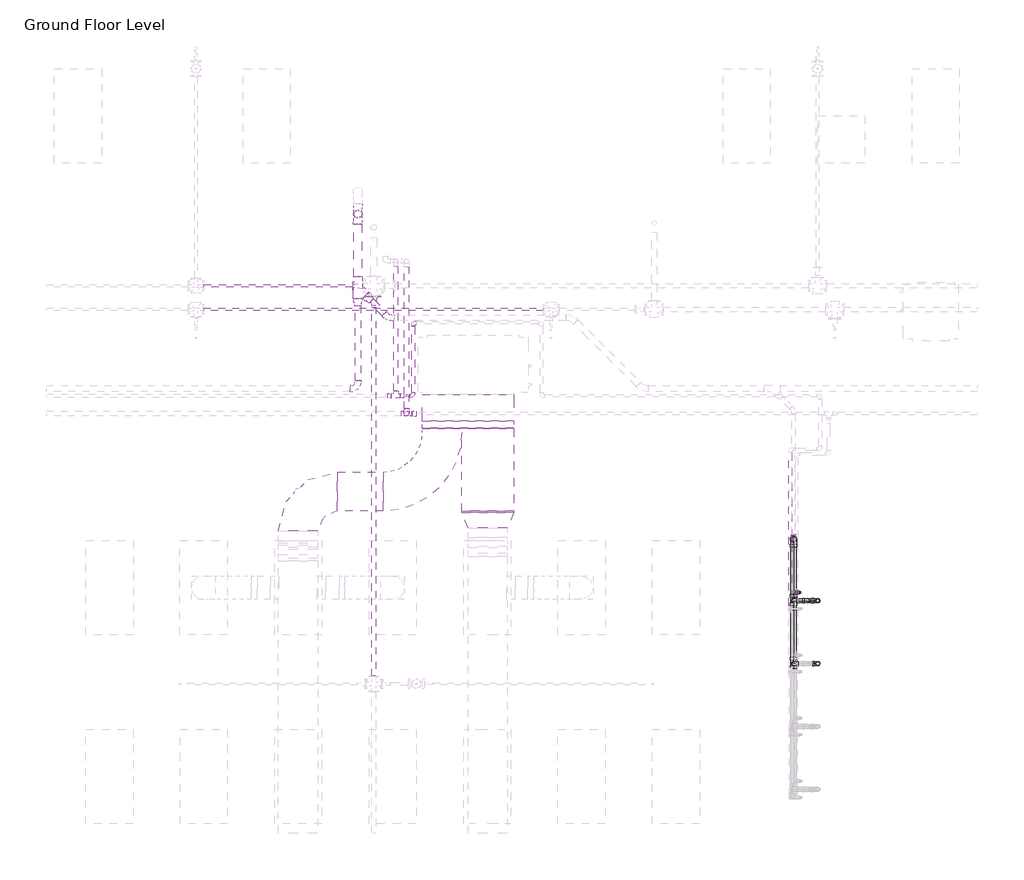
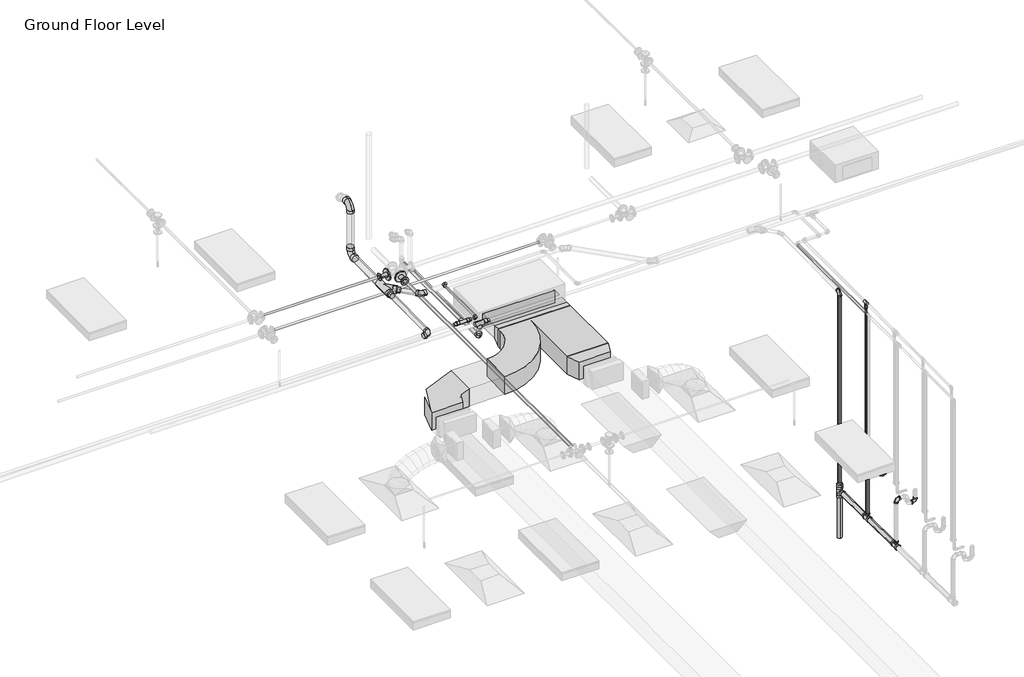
# One storey, part 50 of 66: 31 pipe fittings, 27 pipe segments, 5 duct fittings, 4 duct segments.
"""IFC4 building model written with IfcOpenShell, lengths in millimetres."""

from ifc_helpers import new_model, si_unit, point, frame, frame_2d, origin, place, context, project, spatial, polyline, circle_curve, trimmed, segment, composite_curve, outline, extrude, transform, mapped, element, save
from components import m_rectangular_elbow_radius_1_w_abe20169, m_rectangular_transition_angle_45_degree_0ac038db, m_rectangular_transition_angle_45_degree_2e6f116c, m_rectangular_transition_angle_45_degree_bb273bf1, m_rectangular_wye_smooth_radius_standard_737174da, m_bend_pvc_sch_40_dwv_standard_1e7bdcc1, m_bend_pvc_sch_40_dwv_standard_738aab8b, m_bend_pvc_sch_40_dwv_standard_33e831c1, m_bend_pvc_sch_40_dwv_standard_bd716fa2, m_bend_pvc_sch_40_dwv_standard_fbb643c2, m_bend_pvc_sch_40_dwv_standard_bfb77a87, m_reducer_flanged_cs_class_150_standard_fb6801e4, m_reducer_flanged_cs_class_150_standard_aac2962f, m_reducer_pvc_sch_40_dwv_standard_d6f2da47, m_reducer_pvc_sch_40_dwv_standard_93e50943, m_tee_pvc_sch_40_standard_4c5b037c, m_tee_reducing_sanitary_pvc_sch_40_dwv_standard_21d2848c, m_tee_reducing_sanitary_pvc_sch_40_dwv_standard_b574f8c1, standard_b266ab3f, standard_517a5a8d, standard_72b35c3b, standard_cd25fed3, standard_5079833c, standard_bbae78af, standard_a995ec02, standard_e5aa6446, standard_57727813, standard_77f9104c

model = new_model("IFC4")

# Units and contexts
model_context = context("Model", 3, world=origin())
ifc_project = project(units=[si_unit("LENGTHUNIT", "METRE", prefix="MILLI")], contexts=[model_context])

# Site, building, storey
site = spatial("IfcSite", under=ifc_project)
building = spatial("IfcBuilding", under=site)
storey = spatial("IfcBuildingStorey", under=building, Name="Ground Floor Level", Elevation=900.0)

# Duct fittings
placement = place(None, origin())
m_rectangular_elbow_radius_1_w_shape = m_rectangular_elbow_radius_1_w_abe20169(model_context)
element("IfcDuctFitting", 1, ObjectType="M_Rectangular Elbow - Radius : 1 W", at=placement, inside=storey, context=model_context, shape_type="MappedRepresentation", body=[
    mapped(m_rectangular_elbow_radius_1_w_shape, transform((-6939.6912607, 12459.4153535, 4107.1399598), x_axis=(-0.9999999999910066, 0.0, 4.2410714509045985e-06), y_axis=(0.0, -1.0, 0.0), z_axis=(4.2410714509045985e-06, 0.0, 0.9999999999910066))),
])
m_rectangular_transition_angle_45_degree_shape = m_rectangular_transition_angle_45_degree_0ac038db(model_context)
element("IfcDuctFitting", 2, ObjectType="M_Rectangular Transition - Angle : 45 Degree", at=placement, inside=storey, context=model_context, shape_type="MappedRepresentation", body=[
    mapped(m_rectangular_transition_angle_45_degree_shape, transform((-4528.6910789, 12192.414605, 4107.133239), x_axis=(0.0, -0.9999999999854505, 5.394345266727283e-06), y_axis=(1.0, 0.0, 0.0), z_axis=(0.0, 5.394345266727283e-06, 0.9999999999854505))),
])
m_rectangular_transition_angle_45_degree_2_shape = m_rectangular_transition_angle_45_degree_2e6f116c(model_context)
element("IfcDuctFitting", 3, ObjectType="M_Rectangular Transition - Angle : 45 Degree", at=placement, inside=storey, context=model_context, shape_type="MappedRepresentation", body=[
    mapped(m_rectangular_transition_angle_45_degree_2_shape, transform((-4778.6910789, 13694.4153534, 4150.0050223), x_axis=(0.0, -1.0, 0.0), y_axis=(1.0, 0.0, 0.0), z_axis=(0.0, 0.0, 1.0))),
])
m_rectangular_transition_angle_45_degree_3_shape = m_rectangular_transition_angle_45_degree_bb273bf1(model_context)
element("IfcDuctFitting", 4, ObjectType="M_Rectangular Transition - Angle : 45 Degree", at=placement, inside=storey, context=model_context, shape_type="MappedRepresentation", body=[
    mapped(m_rectangular_transition_angle_45_degree_3_shape, transform((-4778.6910789, 13354.5699657, 4150.0028095), x_axis=(0.0, -0.9999999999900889, -4.452214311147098e-06), y_axis=(1.0, 0.0, 0.0), z_axis=(0.0, -4.452214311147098e-06, 0.9999999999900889))),
])
m_rectangular_wye_smooth_radius_standard_shape = m_rectangular_wye_smooth_radius_standard_737174da(model_context)
element("IfcDuctFitting", 5, ObjectType="M_Rectangular Wye - Smooth Radius : Standard", at=placement, inside=storey, context=model_context, shape_type="MappedRepresentation", body=[
    mapped(m_rectangular_wye_smooth_radius_standard_shape, transform((-4653.6910789, 12459.4153535, 4107.1353795), x_axis=(0.0, -0.9999999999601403, -8.928571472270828e-06), y_axis=(1.0, 0.0, 0.0), z_axis=(0.0, -8.928571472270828e-06, 0.9999999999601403))),
])

# Duct segments
element("IfcDuctSegment", 6, ObjectType="Radius Elbows / Taps", at=placement, inside=storey, context=model_context, shape_type="SweptSolid", body=[
    extrude(outline(polyline([(-4859.6910789, 12209.4153535), (-4197.6910789, 12209.4153535), (-4197.6910789, 12192.414605), (-4859.6910789, 12192.414605), (-4859.6910789, 12209.4153535)])), frame((0.0, 0.0, 3957.1331473), z_axis=(0.0, 0.0, 1.0), x_axis=(1.0, 0.0, 0.0)), (0.0, 0.0, 1.0), 300.0),
])
element("IfcDuctSegment", 7, ObjectType="Radius Elbows / Taps", at=placement, inside=storey, context=model_context, shape_type="SweptSolid", body=[
    extrude(outline(polyline([(-5859.6910789, 12709.4153535), (-5859.6910789, 12209.4153535), (-6439.6912607, 12209.4153535), (-6439.6912607, 12709.4153535), (-5859.6910789, 12709.4153535)])), frame((0.0, 0.0, 3957.1353795), z_axis=(0.0, 0.0, 1.0), x_axis=(1.0, 0.0, 0.0)), (0.0, 0.0, 1.0), 300.0),
])
element("IfcDuctSegment", 8, ObjectType="Radius Elbows / Taps", at=placement, inside=storey, context=model_context, shape_type="SweptSolid", body=[
    extrude(outline(polyline([(-5359.6910789, 13694.083399), (-4197.6910789, 13694.083399), (-4197.6910789, 13354.5699657), (-5359.6910789, 13354.5699657), (-5359.6910789, 13694.083399)])), frame((0.0, 0.0, 4043.0050223), z_axis=(0.0, 0.0, 1.0), x_axis=(1.0, 0.0, 0.0)), (0.0, 0.0, 1.0), 214.0),
])
element("IfcDuctSegment", 9, ObjectType="Radius Elbows / Taps", at=placement, inside=storey, context=model_context, shape_type="SweptSolid", body=[
    extrude(outline(polyline([(0.0, -1162.0), (0.0, 0.0), (9.0109299, 0.0), (9.0109299, -1162.0), (0.0, -1162.0)])), frame((-5359.6910789, 13259.4862791, 3957.1425391), z_axis=(0.0, -0.00047283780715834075, 0.9999998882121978), x_axis=(0.0, 0.9999998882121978, 0.00047283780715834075)), (0.0, 0.0, 1.0), 300.0),
])

# Pipe fittings
m_bend_pvc_sch_40_dwv_standard_shape = m_bend_pvc_sch_40_dwv_standard_1e7bdcc1(model_context)
element("IfcPipeFitting", 10, ObjectType="M_Bend - PVC - Sch 40 - DWV : Standard", at=placement, inside=storey, context=model_context, shape_type="MappedRepresentation", body=[
    mapped(m_bend_pvc_sch_40_dwv_standard_shape, transform((-642.2357232, 11855.5503966, 4093.773994), x_axis=(0.0, 0.0, 1.0), y_axis=(0.0, 1.0, 0.0), z_axis=(-1.0, 0.0, 0.0))),
])
m_bend_pvc_sch_40_dwv_standard_2_shape = m_bend_pvc_sch_40_dwv_standard_738aab8b(model_context)
element("IfcPipeFitting", 11, ObjectType="M_Bend - PVC - Sch 40 - DWV : Standard", at=placement, inside=storey, context=model_context, shape_type="MappedRepresentation", body=[
    mapped(m_bend_pvc_sch_40_dwv_standard_2_shape, transform((-463.6645494, 11071.1979139, 1370.0), x_axis=(-1.0, 0.0, 0.0), y_axis=(0.0, 0.0, 1.0), z_axis=(0.0, 1.0, 0.0))),
])
element("IfcPipeFitting", 12, ObjectType="M_Bend - PVC - Sch 40 - DWV : Standard", at=placement, inside=storey, context=model_context, shape_type="MappedRepresentation", body=[
    mapped(m_bend_pvc_sch_40_dwv_standard_2_shape, transform((-463.6645494, 11071.1979139, 1510.0), x_axis=(0.0, 0.0, 1.0), y_axis=(-1.0, 0.0, 0.0), z_axis=(0.0, -1.0, 0.0))),
])
element("IfcPipeFitting", 13, ObjectType="M_Bend - PVC - Sch 40 - DWV : Standard", at=placement, inside=storey, context=model_context, shape_type="MappedRepresentation", body=[
    mapped(m_bend_pvc_sch_40_dwv_standard_2_shape, transform((-333.6645494, 10271.1979139, 1370.0), x_axis=(1.0, 0.0, 0.0), y_axis=(0.0, 0.0, 1.0), z_axis=(0.0, -1.0, 0.0))),
])
element("IfcPipeFitting", 14, ObjectType="M_Bend - PVC - Sch 40 - DWV : Standard", at=placement, inside=storey, context=model_context, shape_type="MappedRepresentation", body=[
    mapped(m_bend_pvc_sch_40_dwv_standard_2_shape, transform((-333.6645494, 11071.1979139, 1370.0), x_axis=(1.0, 0.0, 0.0), y_axis=(0.0, 0.0, 1.0), z_axis=(0.0, -1.0, 0.0))),
])
element("IfcPipeFitting", 15, ObjectType="M_Bend - PVC - Sch 40 - DWV : Standard", at=placement, inside=storey, context=model_context, shape_type="MappedRepresentation", body=[
    mapped(m_bend_pvc_sch_40_dwv_standard_2_shape, transform((-642.2301761, 10271.1979139, 1510.0), x_axis=(-1.0, 0.0, 0.0), y_axis=(0.0, 0.0, -1.0), z_axis=(0.0, -1.0, 0.0))),
])
element("IfcPipeFitting", 16, ObjectType="M_Bend - PVC - Sch 40 - DWV : Standard", at=placement, inside=storey, context=model_context, shape_type="MappedRepresentation", body=[
    mapped(m_bend_pvc_sch_40_dwv_standard_2_shape, transform((-642.2301761, 11071.1979139, 1510.0), x_axis=(-1.0, 0.0, 0.0), y_axis=(0.0, 0.0, -1.0), z_axis=(0.0, -1.0, 0.0))),
])
m_bend_pvc_sch_40_dwv_standard_3_shape = m_bend_pvc_sch_40_dwv_standard_33e831c1(model_context)
element("IfcPipeFitting", 17, ObjectType="M_Bend - PVC - Sch 40 - DWV : Standard", at=placement, inside=storey, context=model_context, shape_type="MappedRepresentation", body=[
    mapped(m_bend_pvc_sch_40_dwv_standard_3_shape, transform((-6179.174125, 13768.8048932, 4156.9282537), x_axis=(0.9999500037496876, 0.0, 0.00999950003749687), y_axis=(-9.998500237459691e-05, 0.999950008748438, 0.009998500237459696), z_axis=(-0.009999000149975, -0.009999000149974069, 0.9999000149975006))),
])
m_bend_pvc_sch_40_dwv_standard_4_shape = m_bend_pvc_sch_40_dwv_standard_bd716fa2(model_context)
element("IfcPipeFitting", 18, ObjectType="M_Bend - PVC - Sch 40 - DWV : Standard", at=placement, inside=storey, context=model_context, shape_type="MappedRepresentation", body=[
    mapped(m_bend_pvc_sch_40_dwv_standard_4_shape, transform((-6179.1770144, 15988.8715849, 4179.1289206), x_axis=(0.0, 0.9999500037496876, 0.009999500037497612), y_axis=(0.0, -0.009999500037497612, 0.9999500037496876), z_axis=(1.0, 0.0, 0.0))),
])
m_bend_pvc_sch_40_dwv_standard_5_shape = m_bend_pvc_sch_40_dwv_standard_fbb643c2(model_context)
element("IfcPipeFitting", 19, ObjectType="M_Bend - PVC - Sch 40 - DWV : Standard", at=placement, inside=storey, context=model_context, shape_type="MappedRepresentation", body=[
    mapped(m_bend_pvc_sch_40_dwv_standard_5_shape, transform((-5796.171114, 14668.7334723, 4163.0722858), x_axis=(0.7069124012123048, -0.7071711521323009, -0.013557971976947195), y_axis=(0.7072304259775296, 0.7069828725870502, -0.0005851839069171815), z_axis=(0.009999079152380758, -0.00917493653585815, 0.999907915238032))),
])
m_bend_pvc_sch_40_dwv_standard_6_shape = m_bend_pvc_sch_40_dwv_standard_bfb77a87(model_context)
element("IfcPipeFitting", 20, ObjectType="M_Bend - PVC - Sch 40 - DWV : Standard", at=placement, inside=storey, context=model_context, shape_type="MappedRepresentation", body=[
    mapped(m_bend_pvc_sch_40_dwv_standard_6_shape, transform((-6179.1776394, 15988.874234, 5027.5258857), x_axis=(-4.882554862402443e-06, 2.069385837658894e-05, 0.9999999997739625), y_axis=(4.892659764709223e-08, 0.9999999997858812, -2.0693858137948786e-05), z_axis=(-0.9999999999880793, 4.8825558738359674e-08, -4.882555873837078e-06))),
])
m_reducer_flanged_cs_class_150_standard_shape = m_reducer_flanged_cs_class_150_standard_fb6801e4(model_context)
element("IfcPipeFitting", 21, ObjectType="M_Reducer - Flanged - CS - Class 150 : Standard", at=placement, inside=storey, context=model_context, shape_type="MappedRepresentation", body=[
    mapped(m_reducer_flanged_cs_class_150_standard_shape, transform((-6105.130502, 15073.2009828, 4360.0), x_axis=(-1.0, 0.0, 0.0), y_axis=(0.0, -1.0, 0.0), z_axis=(0.0, 0.0, 1.0))),
])
m_reducer_flanged_cs_class_150_standard_2_shape = m_reducer_flanged_cs_class_150_standard_aac2962f(model_context)
element("IfcPipeFitting", 22, ObjectType="M_Reducer - Flanged - CS - Class 150 : Standard", at=placement, inside=storey, context=model_context, shape_type="MappedRepresentation", body=[
    mapped(m_reducer_flanged_cs_class_150_standard_2_shape, transform((-5978.130502, 14946.2009828, 4360.0), x_axis=(0.0, -1.0, 0.0), y_axis=(1.0, 0.0, 0.0), z_axis=(0.0, 0.0, 1.0))),
])
m_reducer_pvc_sch_40_dwv_standard_shape = m_reducer_pvc_sch_40_dwv_standard_d6f2da47(model_context)
element("IfcPipeFitting", 23, ObjectType="M_Reducer - PVC - Sch 40 - DWV : Standard", at=placement, inside=storey, context=model_context, shape_type="MappedRepresentation", body=[
    mapped(m_reducer_pvc_sch_40_dwv_standard_shape, transform((-642.2301761, 11855.5442121, 776.9463422), x_axis=(0.0, 0.0, 1.0), y_axis=(0.0, 1.0, 0.0), z_axis=(-1.0, 0.0, 0.0))),
])
m_reducer_pvc_sch_40_dwv_standard_2_shape = m_reducer_pvc_sch_40_dwv_standard_93e50943(model_context)
element("IfcPipeFitting", 24, ObjectType="M_Reducer - PVC - Sch 40 - DWV : Standard", at=placement, inside=storey, context=model_context, shape_type="MappedRepresentation", body=[
    mapped(m_reducer_pvc_sch_40_dwv_standard_2_shape, transform((-6179.1770144, 14819.9179815, 4167.4393846), x_axis=(0.0, 0.9999500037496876, 0.009999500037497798), y_axis=(-1.0000000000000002, 0.0, 0.0), z_axis=(0.0, -0.009999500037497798, 0.9999500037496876))),
])
element("IfcPipeFitting", 25, ObjectType="M_Reducer - PVC - Sch 40 - DWV : Standard", at=placement, inside=storey, context=model_context, shape_type="MappedRepresentation", body=[
    mapped(m_reducer_pvc_sch_40_dwv_standard_2_shape, transform((-6010.7168995, 14883.3577879, 4167.1870895), x_axis=(-0.7069124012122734, 0.7071711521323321, 0.01355797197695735), y_axis=(-0.7072361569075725, -0.7069773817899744, -2.1519182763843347e-08), z_axis=(0.00958516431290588, -0.009588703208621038, 0.9999080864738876))),
])
m_tee_pvc_sch_40_standard_shape = m_tee_pvc_sch_40_standard_4c5b037c(model_context)
element("IfcPipeFitting", 26, ObjectType="M_Tee - PVC - Sch 40 : Standard", at=placement, inside=storey, context=model_context, shape_type="MappedRepresentation", body=[
    mapped(m_tee_pvc_sch_40_standard_shape, transform((-6179.1770144, 15051.7796868, 4169.7580016), x_axis=(0.0, 0.9999500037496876, 0.009999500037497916), y_axis=(-0.9999972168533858, -2.3591797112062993e-05, 0.0023591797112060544), z_axis=(0.0023592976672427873, -0.009999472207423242, 0.9999472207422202))),
])
m_tee_reducing_sanitary_pvc_sch_40_dwv_standard_shape = m_tee_reducing_sanitary_pvc_sch_40_dwv_standard_21d2848c(model_context)
element("IfcPipeFitting", 27, ObjectType="M_Tee Reducing Sanitary - PVC - Sch 40 - DWV : Standard", at=placement, inside=storey, context=model_context, shape_type="MappedRepresentation", body=[
    mapped(m_tee_reducing_sanitary_pvc_sch_40_dwv_standard_shape, transform((-642.2301761, 10271.1979139, 711.098886), x_axis=(0.0, -0.9999500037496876, 0.009999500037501), y_axis=(0.0, -0.009999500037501, -0.9999500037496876), z_axis=(1.0, 0.0, 0.0))),
])
element("IfcPipeFitting", 28, ObjectType="M_Tee Reducing Sanitary - PVC - Sch 40 - DWV : Standard", at=placement, inside=storey, context=model_context, shape_type="MappedRepresentation", body=[
    mapped(m_tee_reducing_sanitary_pvc_sch_40_dwv_standard_shape, transform((-642.2301761, 11071.1979139, 703.098886), x_axis=(0.0, -0.9999500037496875, 0.00999950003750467), y_axis=(0.0, -0.00999950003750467, -0.9999500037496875), z_axis=(1.0, 0.0, 0.0))),
])
m_tee_reducing_sanitary_pvc_sch_40_dwv_standard_2_shape = m_tee_reducing_sanitary_pvc_sch_40_dwv_standard_b574f8c1(model_context)
element("IfcPipeFitting", 29, ObjectType="M_Tee Reducing Sanitary - PVC - Sch 40 - DWV : Standard", at=placement, inside=storey, context=model_context, shape_type="MappedRepresentation", body=[
    mapped(m_tee_reducing_sanitary_pvc_sch_40_dwv_standard_2_shape, transform((-642.2301761, 11855.5442121, 695.255423), x_axis=(0.0, 0.0, 1.0), y_axis=(0.0, 1.0, 0.0), z_axis=(-1.0, 0.0, 0.0))),
])
standard_shape = standard_b266ab3f(model_context)
element("IfcPipeFitting", 30, ObjectType="M_Elbow - CPVC - Sch 40 : Standard", at=placement, inside=storey, context=model_context, shape_type="MappedRepresentation", body=[
    mapped(standard_shape, transform((-607.2327605, 11175.5128345, 1690.0), x_axis=(-1.0, 0.0, 0.0), y_axis=(0.0, 0.0, 1.0), z_axis=(0.0, 1.0, 0.0))),
])
standard_2_shape = standard_517a5a8d(model_context)
element("IfcPipeFitting", 31, ObjectType="M_Elbow - CPVC - Sch 40 : Standard", at=placement, inside=storey, context=model_context, shape_type="MappedRepresentation", body=[
    mapped(standard_2_shape, transform((-5476.1871015, 13675.2153534, 4250.0), x_axis=(1.0, 0.0, 0.0), y_axis=(0.0, 1.0, 0.0), z_axis=(0.0, 0.0, 1.0))),
])
element("IfcPipeFitting", 32, ObjectType="M_Elbow - CPVC - Sch 40 : Standard", at=placement, inside=storey, context=model_context, shape_type="MappedRepresentation", body=[
    mapped(standard_2_shape, transform((-5476.1871015, 14603.43487, 4250.0), x_axis=(-1.0, 0.0, 0.0), y_axis=(0.0, -1.0, 0.0), z_axis=(0.0, 0.0, 1.0))),
])
standard_3_shape = standard_72b35c3b(model_context)
element("IfcPipeFitting", 33, ObjectType="M_Tee - CPVC - Sch 40 : Standard", at=placement, inside=storey, context=model_context, shape_type="MappedRepresentation", body=[
    mapped(standard_3_shape, transform((-607.2327605, 11175.5128345, 4315.0), x_axis=(0.0, -1.0, 0.0), y_axis=(0.0, 0.0, 1.0), z_axis=(-1.0, 0.0, 0.0))),
])
standard_4_shape = standard_cd25fed3(model_context)
element("IfcPipeFitting", 34, ObjectType="M_Tee - CPVC - Sch 40 : Standard", at=placement, inside=storey, context=model_context, shape_type="MappedRepresentation", body=[
    mapped(standard_4_shape, transform((-5560.8713756, 13449.9865561, 4315.0), x_axis=(1.0, 0.0, 0.0), y_axis=(0.0, 0.0, 1.0), z_axis=(0.0, -1.0, 0.0))),
])
standard_5_shape = standard_5079833c(model_context)
element("IfcPipeFitting", 35, ObjectType="M_Coupling Reducing - CPVC - Sch 40 : Standard", at=placement, inside=storey, context=model_context, shape_type="MappedRepresentation", body=[
    mapped(standard_5_shape, transform((-5486.9943636, 13449.9865561, 4315.0), x_axis=(1.0, 0.0, 0.0), y_axis=(0.0, 1.0, 0.0), z_axis=(0.0, 0.0, 1.0))),
])
standard_6_shape = standard_bbae78af(model_context)
element("IfcPipeFitting", 36, ObjectType="M_Tee - CPVC - Sch 40 : Standard", at=placement, inside=storey, context=model_context, shape_type="MappedRepresentation", body=[
    mapped(standard_6_shape, transform((-5698.3060147, 13675.2153534, 4250.0), x_axis=(1.0, 0.0, 0.0), y_axis=(0.0, -1.0, 0.0), z_axis=(0.0, 0.0, -1.0))),
])
standard_7_shape = standard_a995ec02(model_context)
element("IfcPipeFitting", 37, ObjectType="M_Coupling Reducing - CPVC - Sch 40 : Standard", at=placement, inside=storey, context=model_context, shape_type="MappedRepresentation", body=[
    mapped(standard_7_shape, transform((-5757.0562147, 13675.2153534, 4250.0), x_axis=(-1.0, 0.0, 0.0), y_axis=(0.0, -1.0, 0.0), z_axis=(0.0, 0.0, 1.0))),
])
standard_8_shape = standard_e5aa6446(model_context)
element("IfcPipeFitting", 38, ObjectType="M_Coupling Reducing - CPVC - Sch 40 : Standard", at=placement, inside=storey, context=model_context, shape_type="MappedRepresentation", body=[
    mapped(standard_8_shape, transform((-607.2327605, 11175.5128345, 4275.2998), x_axis=(0.0, 0.0, -1.0), y_axis=(1.0, 0.0, 0.0), z_axis=(0.0, -1.0, 0.0))),
])
standard_9_shape = standard_57727813(model_context)
element("IfcPipeFitting", 39, ObjectType="M_Elbow - CPVC - Sch 40 : Standard", at=placement, inside=storey, context=model_context, shape_type="MappedRepresentation", body=[
    mapped(standard_9_shape, transform((-5560.8713756, 13449.9865561, 4090.0), x_axis=(0.0, 0.0, -1.0), y_axis=(0.0, 1.0, 0.0), z_axis=(1.0, 0.0, 0.0))),
])
standard_10_shape = standard_77f9104c(model_context)
element("IfcPipeFitting", 40, ObjectType="M_Coupling Reducing - CPVC - Sch 40 : Standard", at=placement, inside=storey, context=model_context, shape_type="MappedRepresentation", body=[
    mapped(standard_10_shape, transform((-5639.5558147, 13675.2153534, 4250.0), x_axis=(1.0, 0.0, 0.0), y_axis=(0.0, 1.0, 0.0), z_axis=(0.0, 0.0, 1.0))),
])

# Pipe segments
element("IfcPipeSegment", 41, ObjectType="CPVC", at=placement, inside=storey, context=model_context, shape_type="SweptSolid", body=[
    extrude(outline(composite_curve([segment(trimmed(circle_curve(frame_2d((13449.9865561, 4315.0)), 30.1625), [point((13419.8240561, 4315.0))], [point((13449.9865561, 4345.1625))], False, "CARTESIAN"), True, "CONTINUOUS"), segment(trimmed(circle_curve(frame_2d((13449.9865561, 4315.0)), 30.1625), [point((13449.9865561, 4345.1625))], [point((13480.1490561, 4315.0))], False, "CARTESIAN"), True, "CONTINUOUS"), segment(trimmed(circle_curve(frame_2d((13449.9865561, 4315.0)), 30.1625), [point((13480.1490561, 4315.0))], [point((13449.9865561, 4284.8375))], False, "CARTESIAN"), True, "CONTINUOUS"), segment(trimmed(circle_curve(frame_2d((13449.9865561, 4315.0)), 30.1625), [point((13449.9865561, 4284.8375))], [point((13419.8240561, 4315.0))], False, "CARTESIAN"), True, "CONTINUOUS")], self_intersect=False)), frame((-5494.1963756, 0.0, 0.0), z_axis=(1.0, 0.0, 0.0), x_axis=(0.0, 1.0, 0.0)), (0.0, 0.0, 1.0), 7.202012),
])
element("IfcPipeSegment", 42, ObjectType="CPVC", at=placement, inside=storey, context=model_context, shape_type="SweptSolid", body=[
    extrude(outline(composite_curve([segment(trimmed(circle_curve(frame_2d((4090.0, -5560.8713756)), 30.1625), [point((4090.0, -5591.0338756))], [point((4059.8375, -5560.8713756))], False, "CARTESIAN"), True, "CONTINUOUS"), segment(trimmed(circle_curve(frame_2d((4090.0, -5560.8713756)), 30.1625), [point((4059.8375, -5560.8713756))], [point((4090.0, -5530.7088756))], False, "CARTESIAN"), True, "CONTINUOUS"), segment(trimmed(circle_curve(frame_2d((4090.0, -5560.8713756)), 30.1625), [point((4090.0, -5530.7088756))], [point((4120.1625, -5560.8713756))], False, "CARTESIAN"), True, "CONTINUOUS"), segment(trimmed(circle_curve(frame_2d((4090.0, -5560.8713756)), 30.1625), [point((4120.1625, -5560.8713756))], [point((4090.0, -5591.0338756))], False, "CARTESIAN"), True, "CONTINUOUS")], self_intersect=False)), frame((0.0, 13514.2803061, 0.0), z_axis=(0.0, 1.0, 0.0), x_axis=(0.0, 0.0, 1.0)), (0.0, 0.0, 1.0), 1806.9275947),
])
element("IfcPipeSegment", 43, ObjectType="CPVC", at=placement, inside=storey, context=model_context, shape_type="SweptSolid", body=[
    extrude(outline(composite_curve([segment(trimmed(circle_curve(frame_2d((4250.0, -5698.3060147)), 24.13), [point((4250.0, -5674.1760147))], [point((4274.13, -5698.3060147))], False, "CARTESIAN"), True, "CONTINUOUS"), segment(trimmed(circle_curve(frame_2d((4250.0, -5698.3060147)), 24.13), [point((4274.13, -5698.3060147))], [point((4250.0, -5722.4360147))], False, "CARTESIAN"), True, "CONTINUOUS"), segment(trimmed(circle_curve(frame_2d((4250.0, -5698.3060147)), 24.13), [point((4250.0, -5722.4360147))], [point((4225.87, -5698.3060147))], False, "CARTESIAN"), True, "CONTINUOUS"), segment(trimmed(circle_curve(frame_2d((4250.0, -5698.3060147)), 24.13), [point((4225.87, -5698.3060147))], [point((4250.0, -5674.1760147))], False, "CARTESIAN"), True, "CONTINUOUS")], self_intersect=False)), frame((0.0, 13733.9655534, 0.0), z_axis=(0.0, 1.0, 0.0), x_axis=(0.0, 0.0, 1.0)), (0.0, 0.0, 1.0), 1593.3020527),
])
element("IfcPipeSegment", 44, ObjectType="CPVC", at=placement, inside=storey, context=model_context, shape_type="SweptSolid", body=[
    extrude(outline(composite_curve([segment(trimmed(circle_curve(frame_2d((11175.5128345, 1690.0)), 13.335), [point((11188.8478345, 1690.0))], [point((11175.5128345, 1676.665))], False, "CARTESIAN"), True, "CONTINUOUS"), segment(trimmed(circle_curve(frame_2d((11175.5128345, 1690.0)), 13.335), [point((11175.5128345, 1676.665))], [point((11162.1778345, 1690.0))], False, "CARTESIAN"), True, "CONTINUOUS"), segment(trimmed(circle_curve(frame_2d((11175.5128345, 1690.0)), 13.335), [point((11162.1778345, 1690.0))], [point((11175.5128345, 1703.335))], False, "CARTESIAN"), True, "CONTINUOUS"), segment(trimmed(circle_curve(frame_2d((11175.5128345, 1690.0)), 13.335), [point((11175.5128345, 1703.335))], [point((11188.8478345, 1690.0))], False, "CARTESIAN"), True, "CONTINUOUS")], self_intersect=False)), frame((-571.9077105, 0.0, 0.0), z_axis=(1.0, 0.0, 0.0), x_axis=(0.0, 1.0, 0.0)), (0.0, 0.0, 1.0), 14.67495),
])
element("IfcPipeSegment", 45, ObjectType="CPVC", at=placement, inside=storey, context=model_context, shape_type="SweptSolid", body=[
    extrude(outline(composite_curve([segment(trimmed(circle_curve(frame_2d((-607.2327605, 11175.5128345)), 13.335), [point((-620.5677605, 11175.5128345))], [point((-607.2327605, 11188.8478345))], False, "CARTESIAN"), True, "CONTINUOUS"), segment(trimmed(circle_curve(frame_2d((-607.2327605, 11175.5128345)), 13.335), [point((-607.2327605, 11188.8478345))], [point((-593.8977605, 11175.5128345))], False, "CARTESIAN"), True, "CONTINUOUS"), segment(trimmed(circle_curve(frame_2d((-607.2327605, 11175.5128345)), 13.335), [point((-593.8977605, 11175.5128345))], [point((-607.2327605, 11162.1778345))], False, "CARTESIAN"), True, "CONTINUOUS"), segment(trimmed(circle_curve(frame_2d((-607.2327605, 11175.5128345)), 13.335), [point((-607.2327605, 11162.1778345))], [point((-620.5677605, 11175.5128345))], False, "CARTESIAN"), True, "CONTINUOUS")], self_intersect=False)), frame((0.0, 0.0, 1725.32505), z_axis=(0.0, 0.0, 1.0), x_axis=(1.0, 0.0, 0.0)), (0.0, 0.0, 1.0), 2492.82475),
])
element("IfcPipeSegment", 46, ObjectType="CPVC", at=placement, inside=storey, context=model_context, shape_type="SweptSolid", body=[
    extrude(outline(composite_curve([segment(trimmed(circle_curve(frame_2d((4250.0, -684.0671674)), 16.7005), [point((4250.0, -667.3666674))], [point((4266.7005, -684.0671674))], False, "CARTESIAN"), True, "CONTINUOUS"), segment(trimmed(circle_curve(frame_2d((4250.0, -684.0671674)), 16.7005), [point((4266.7005, -684.0671674))], [point((4250.0, -700.7676674))], False, "CARTESIAN"), True, "CONTINUOUS"), segment(trimmed(circle_curve(frame_2d((4250.0, -684.0671674)), 16.7005), [point((4250.0, -700.7676674))], [point((4233.2995, -684.0671674))], False, "CARTESIAN"), True, "CONTINUOUS"), segment(trimmed(circle_curve(frame_2d((4250.0, -684.0671674)), 16.7005), [point((4233.2995, -684.0671674))], [point((4250.0, -667.3666674))], False, "CARTESIAN"), True, "CONTINUOUS")], self_intersect=False)), frame((0.0, 11006.5831933, 0.0), z_axis=(0.0, 1.0, 0.0), x_axis=(0.0, 0.0, 1.0)), (0.0, 0.0, 1.0), 1945.3696101),
])
element("IfcPipeSegment", 47, ObjectType="CPVC", at=placement, inside=storey, context=model_context, shape_type="SweptSolid", body=[
    extrude(outline(composite_curve([segment(trimmed(circle_curve(frame_2d((13675.2153534, 4250.0)), 16.7005), [point((13658.5148534, 4250.0))], [point((13675.2153534, 4266.7005))], False, "CARTESIAN"), True, "CONTINUOUS"), segment(trimmed(circle_curve(frame_2d((13675.2153534, 4250.0)), 16.7005), [point((13675.2153534, 4266.7005))], [point((13691.9158534, 4250.0))], False, "CARTESIAN"), True, "CONTINUOUS"), segment(trimmed(circle_curve(frame_2d((13675.2153534, 4250.0)), 16.7005), [point((13691.9158534, 4250.0))], [point((13675.2153534, 4233.2995))], False, "CARTESIAN"), True, "CONTINUOUS"), segment(trimmed(circle_curve(frame_2d((13675.2153534, 4250.0)), 16.7005), [point((13675.2153534, 4233.2995))], [point((13658.5148534, 4250.0))], False, "CARTESIAN"), True, "CONTINUOUS")], self_intersect=False)), frame((-5567.3569397, 0.0, 0.0), z_axis=(1.0, 0.0, 0.0), x_axis=(0.0, 1.0, 0.0)), (0.0, 0.0, 1.0), 47.9072882),
])
element("IfcPipeSegment", 48, ObjectType="CPVC", at=placement, inside=storey, context=model_context, shape_type="SweptSolid", body=[
    extrude(outline(composite_curve([segment(trimmed(circle_curve(frame_2d((4250.0, -5476.1871015)), 16.7005), [point((4250.0, -5459.4866015))], [point((4266.7005, -5476.1871015))], False, "CARTESIAN"), True, "CONTINUOUS"), segment(trimmed(circle_curve(frame_2d((4250.0, -5476.1871015)), 16.7005), [point((4266.7005, -5476.1871015))], [point((4250.0, -5492.8876015))], False, "CARTESIAN"), True, "CONTINUOUS"), segment(trimmed(circle_curve(frame_2d((4250.0, -5476.1871015)), 16.7005), [point((4250.0, -5492.8876015))], [point((4233.2995, -5476.1871015))], False, "CARTESIAN"), True, "CONTINUOUS"), segment(trimmed(circle_curve(frame_2d((4250.0, -5476.1871015)), 16.7005), [point((4233.2995, -5476.1871015))], [point((4250.0, -5459.4866015))], False, "CARTESIAN"), True, "CONTINUOUS")], self_intersect=False)), frame((0.0, 13718.4779034, 0.0), z_axis=(0.0, 1.0, 0.0), x_axis=(0.0, 0.0, 1.0)), (0.0, 0.0, 1.0), 841.6944166),
])
element("IfcPipeSegment", 49, ObjectType="CPVC", at=placement, inside=storey, context=model_context, shape_type="SweptSolid", body=[
    extrude(outline(composite_curve([segment(trimmed(circle_curve(frame_2d((-5560.8713756, 13449.9865561)), 30.1625), [point((-5530.7088756, 13449.9865561))], [point((-5560.8713756, 13419.8240561))], False, "CARTESIAN"), True, "CONTINUOUS"), segment(trimmed(circle_curve(frame_2d((-5560.8713756, 13449.9865561)), 30.1625), [point((-5560.8713756, 13419.8240561))], [point((-5591.0338756, 13449.9865561))], False, "CARTESIAN"), True, "CONTINUOUS"), segment(trimmed(circle_curve(frame_2d((-5560.8713756, 13449.9865561)), 30.1625), [point((-5591.0338756, 13449.9865561))], [point((-5560.8713756, 13480.1490561))], False, "CARTESIAN"), True, "CONTINUOUS"), segment(trimmed(circle_curve(frame_2d((-5560.8713756, 13449.9865561)), 30.1625), [point((-5560.8713756, 13480.1490561))], [point((-5530.7088756, 13449.9865561))], False, "CARTESIAN"), True, "CONTINUOUS")], self_intersect=False)), frame((0.0, 0.0, 4154.29375), z_axis=(0.0, 0.0, 1.0), x_axis=(1.0, 0.0, 0.0)), (0.0, 0.0, 1.0), 94.03125),
])
element("IfcPipeSegment", 50, ObjectType="PVC - DWV", at=placement, inside=storey, context=model_context, shape_type="SweptSolid", body=[
    extrude(outline(composite_curve([segment(trimmed(circle_curve(frame_2d((0.0, -36.5125)), 36.5125), [point((36.5125, -36.5125))], [point((0.0, -73.025))], False, "CARTESIAN"), True, "CONTINUOUS"), segment(trimmed(circle_curve(frame_2d((0.0, -36.5125)), 36.5125), [point((0.0, -73.025))], [point((-36.5125, -36.5125))], False, "CARTESIAN"), True, "CONTINUOUS"), segment(trimmed(circle_curve(frame_2d((0.0, -36.5125)), 36.5125), [point((-36.5125, -36.5125))], [point((0.0, 0.0))], False, "CARTESIAN"), True, "CONTINUOUS"), segment(trimmed(circle_curve(frame_2d((0.0, -36.5125)), 36.5125), [point((0.0, 0.0))], [point((36.5125, -36.5125))], False, "CARTESIAN"), True, "CONTINUOUS")], self_intersect=False)), frame((-642.2301761, 11755.9463482, 732.7657272), z_axis=(0.0, -0.9999500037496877, 0.009999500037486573), x_axis=(1.0, 0.0, 0.0)), (0.0, 0.0, 1.0), 605.3544271),
])
element("IfcPipeSegment", 51, ObjectType="PVC - DWV", at=placement, inside=storey, context=model_context, shape_type="SweptSolid", body=[
    extrude(outline(composite_curve([segment(trimmed(circle_curve(frame_2d((-333.6645494, 11071.1979139)), 24.13), [point((-309.5345494, 11071.1979139))], [point((-333.6645494, 11047.0679139))], False, "CARTESIAN"), True, "CONTINUOUS"), segment(trimmed(circle_curve(frame_2d((-333.6645494, 11071.1979139)), 24.13), [point((-333.6645494, 11047.0679139))], [point((-357.7945494, 11071.1979139))], False, "CARTESIAN"), True, "CONTINUOUS"), segment(trimmed(circle_curve(frame_2d((-333.6645494, 11071.1979139)), 24.13), [point((-357.7945494, 11071.1979139))], [point((-333.6645494, 11095.3279139))], False, "CARTESIAN"), True, "CONTINUOUS"), segment(trimmed(circle_curve(frame_2d((-333.6645494, 11071.1979139)), 24.13), [point((-333.6645494, 11095.3279139))], [point((-309.5345494, 11071.1979139))], False, "CARTESIAN"), True, "CONTINUOUS")], self_intersect=False)), frame((0.0, 0.0, 1431.8998), z_axis=(0.0, 0.0, 1.0), x_axis=(1.0, 0.0, 0.0)), (0.0, 0.0, 1.0), 118.1002),
])
element("IfcPipeSegment", 52, ObjectType="PVC - DWV", at=placement, inside=storey, context=model_context, shape_type="SweptSolid", body=[
    extrude(outline(composite_curve([segment(trimmed(circle_curve(frame_2d((11071.1979139, 1370.0)), 24.13), [point((11095.3279139, 1370.0))], [point((11071.1979139, 1345.87))], False, "CARTESIAN"), True, "CONTINUOUS"), segment(trimmed(circle_curve(frame_2d((11071.1979139, 1370.0)), 24.13), [point((11071.1979139, 1345.87))], [point((11047.0679139, 1370.0))], False, "CARTESIAN"), True, "CONTINUOUS"), segment(trimmed(circle_curve(frame_2d((11071.1979139, 1370.0)), 24.13), [point((11047.0679139, 1370.0))], [point((11071.1979139, 1394.13))], False, "CARTESIAN"), True, "CONTINUOUS"), segment(trimmed(circle_curve(frame_2d((11071.1979139, 1370.0)), 24.13), [point((11071.1979139, 1394.13))], [point((11095.3279139, 1370.0))], False, "CARTESIAN"), True, "CONTINUOUS")], self_intersect=False)), frame((-401.7647494, 0.0, 0.0), z_axis=(1.0, 0.0, 0.0), x_axis=(0.0, 1.0, 0.0)), (0.0, 0.0, 1.0), 6.2004),
])
element("IfcPipeSegment", 53, ObjectType="PVC - DWV", at=placement, inside=storey, context=model_context, shape_type="SweptSolid", body=[
    extrude(outline(composite_curve([segment(trimmed(circle_curve(frame_2d((-463.6645494, 11071.1979139)), 24.13), [point((-487.7945494, 11071.1979139))], [point((-463.6645494, 11095.3279139))], False, "CARTESIAN"), True, "CONTINUOUS"), segment(trimmed(circle_curve(frame_2d((-463.6645494, 11071.1979139)), 24.13), [point((-463.6645494, 11095.3279139))], [point((-439.5345494, 11071.1979139))], False, "CARTESIAN"), True, "CONTINUOUS"), segment(trimmed(circle_curve(frame_2d((-463.6645494, 11071.1979139)), 24.13), [point((-439.5345494, 11071.1979139))], [point((-463.6645494, 11047.0679139))], False, "CARTESIAN"), True, "CONTINUOUS"), segment(trimmed(circle_curve(frame_2d((-463.6645494, 11071.1979139)), 24.13), [point((-463.6645494, 11047.0679139))], [point((-487.7945494, 11071.1979139))], False, "CARTESIAN"), True, "CONTINUOUS")], self_intersect=False)), frame((0.0, 0.0, 1431.8998), z_axis=(0.0, 0.0, 1.0), x_axis=(1.0, 0.0, 0.0)), (0.0, 0.0, 1.0), 16.2004),
])
element("IfcPipeSegment", 54, ObjectType="PVC - DWV", at=placement, inside=storey, context=model_context, shape_type="SweptSolid", body=[
    extrude(outline(composite_curve([segment(trimmed(circle_curve(frame_2d((11071.1979139, 1510.0)), 24.13), [point((11095.3279139, 1510.0))], [point((11071.1979139, 1485.87))], False, "CARTESIAN"), True, "CONTINUOUS"), segment(trimmed(circle_curve(frame_2d((11071.1979139, 1510.0)), 24.13), [point((11071.1979139, 1485.87))], [point((11047.0679139, 1510.0))], False, "CARTESIAN"), True, "CONTINUOUS"), segment(trimmed(circle_curve(frame_2d((11071.1979139, 1510.0)), 24.13), [point((11047.0679139, 1510.0))], [point((11071.1979139, 1534.13))], False, "CARTESIAN"), True, "CONTINUOUS"), segment(trimmed(circle_curve(frame_2d((11071.1979139, 1510.0)), 24.13), [point((11071.1979139, 1534.13))], [point((11095.3279139, 1510.0))], False, "CARTESIAN"), True, "CONTINUOUS")], self_intersect=False)), frame((-580.3303761, 0.0, 0.0), z_axis=(1.0, 0.0, 0.0), x_axis=(0.0, 1.0, 0.0)), (0.0, 0.0, 1.0), 54.7660268),
])
element("IfcPipeSegment", 55, ObjectType="PVC - DWV", at=placement, inside=storey, context=model_context, shape_type="SweptSolid", body=[
    extrude(outline(composite_curve([segment(trimmed(circle_curve(frame_2d((-642.2301761, 11071.1979139)), 24.13), [point((-666.3601761, 11071.1979139))], [point((-642.2301761, 11095.3279139))], False, "CARTESIAN"), True, "CONTINUOUS"), segment(trimmed(circle_curve(frame_2d((-642.2301761, 11071.1979139)), 24.13), [point((-642.2301761, 11095.3279139))], [point((-618.1001761, 11071.1979139))], False, "CARTESIAN"), True, "CONTINUOUS"), segment(trimmed(circle_curve(frame_2d((-642.2301761, 11071.1979139)), 24.13), [point((-618.1001761, 11071.1979139))], [point((-642.2301761, 11047.0679139))], False, "CARTESIAN"), True, "CONTINUOUS"), segment(trimmed(circle_curve(frame_2d((-642.2301761, 11071.1979139)), 24.13), [point((-642.2301761, 11047.0679139))], [point((-666.3601761, 11071.1979139))], False, "CARTESIAN"), True, "CONTINUOUS")], self_intersect=False)), frame((0.0, 0.0, 783.9463422), z_axis=(0.0, 0.0, 1.0), x_axis=(1.0, 0.0, 0.0)), (0.0, 0.0, 1.0), 664.1538578),
])
element("IfcPipeSegment", 56, ObjectType="PVC - DWV", at=placement, inside=storey, context=model_context, shape_type="SweptSolid", body=[
    extrude(outline(composite_curve([segment(trimmed(circle_curve(frame_2d((0.0, -36.5125)), 36.5125), [point((36.5125, -36.5125))], [point((0.0, -73.025))], False, "CARTESIAN"), True, "CONTINUOUS"), segment(trimmed(circle_curve(frame_2d((0.0, -36.5125)), 36.5125), [point((0.0, -73.025))], [point((-36.5125, -36.5125))], False, "CARTESIAN"), True, "CONTINUOUS"), segment(trimmed(circle_curve(frame_2d((0.0, -36.5125)), 36.5125), [point((-36.5125, -36.5125))], [point((0.0, 0.0))], False, "CARTESIAN"), True, "CONTINUOUS"), segment(trimmed(circle_curve(frame_2d((0.0, -36.5125)), 36.5125), [point((0.0, 0.0))], [point((36.5125, -36.5125))], False, "CARTESIAN"), True, "CONTINUOUS")], self_intersect=False)), frame((-642.2301761, 11012.0802514, 740.2043882), z_axis=(0.0, -0.9999500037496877, 0.009999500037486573), x_axis=(1.0, 0.0, 0.0)), (0.0, 0.0, 1.0), 661.4911369),
])
element("IfcPipeSegment", 57, ObjectType="PVC - DWV", at=placement, inside=storey, context=model_context, shape_type="SweptSolid", body=[
    extrude(outline(composite_curve([segment(trimmed(circle_curve(frame_2d((-642.2301761, 11855.5442121)), 36.5125), [point((-605.7176761, 11855.5442121))], [point((-642.2301761, 11819.0317121))], False, "CARTESIAN"), True, "CONTINUOUS"), segment(trimmed(circle_curve(frame_2d((-642.2301761, 11855.5442121)), 36.5125), [point((-642.2301761, 11819.0317121))], [point((-678.7426761, 11855.5442121))], False, "CARTESIAN"), True, "CONTINUOUS"), segment(trimmed(circle_curve(frame_2d((-642.2301761, 11855.5442121)), 36.5125), [point((-678.7426761, 11855.5442121))], [point((-642.2301761, 11892.0567121))], False, "CARTESIAN"), True, "CONTINUOUS"), segment(trimmed(circle_curve(frame_2d((-642.2301761, 11855.5442121)), 36.5125), [point((-642.2301761, 11892.0567121))], [point((-605.7176761, 11855.5442121))], False, "CARTESIAN"), True, "CONTINUOUS")], self_intersect=False)), frame((0.0, 0.0, -100.0), z_axis=(0.0, 0.0, 1.0), x_axis=(1.0, 0.0, 0.0)), (0.0, 0.0, 1.0), 697.4423042),
])
element("IfcPipeSegment", 58, ObjectType="PVC - DWV", at=placement, inside=storey, context=model_context, shape_type="SweptSolid", body=[
    extrude(outline(composite_curve([segment(trimmed(circle_curve(frame_2d((0.0, 50.7999999)), 50.8), [point((50.8, 50.7999999))], [point((0.0, 0.0))], False, "CARTESIAN"), True, "CONTINUOUS"), segment(trimmed(circle_curve(frame_2d((0.0, 50.7999999)), 50.8), [point((0.0, 0.0))], [point((-50.8, 50.7999999))], False, "CARTESIAN"), True, "CONTINUOUS"), segment(trimmed(circle_curve(frame_2d((0.0, 50.7999999)), 50.8), [point((-50.8, 50.7999999))], [point((0.0, 101.5999999))], False, "CARTESIAN"), True, "CONTINUOUS"), segment(trimmed(circle_curve(frame_2d((0.0, 50.7999999)), 50.8), [point((0.0, 101.5999999))], [point((50.8, 50.7999999))], False, "CARTESIAN"), True, "CONTINUOUS")], self_intersect=False)), frame((-6179.1770144, 15188.6920457, 4221.9296651), z_axis=(0.0, 0.9999500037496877, 0.009999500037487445), x_axis=(1.0, 0.0, 0.0)), (0.0, 0.0, 1.0), 671.6974847),
])
element("IfcPipeSegment", 59, ObjectType="PVC - DWV", at=placement, inside=storey, context=model_context, shape_type="SweptSolid", body=[
    extrude(outline(composite_curve([segment(trimmed(circle_curve(frame_2d((-6179.1770144, 15988.8715849)), 50.8), [point((-6229.9770144, 15988.8715849))], [point((-6179.1770144, 16039.6715849))], False, "CARTESIAN"), True, "CONTINUOUS"), segment(trimmed(circle_curve(frame_2d((-6179.1770144, 15988.8715849)), 50.8), [point((-6179.1770144, 16039.6715849))], [point((-6128.3770144, 15988.8715849))], False, "CARTESIAN"), True, "CONTINUOUS"), segment(trimmed(circle_curve(frame_2d((-6179.1770144, 15988.8715849)), 50.8), [point((-6128.3770144, 15988.8715849))], [point((-6179.1770144, 15938.0715849))], False, "CARTESIAN"), True, "CONTINUOUS"), segment(trimmed(circle_curve(frame_2d((-6179.1770144, 15988.8715849)), 50.8), [point((-6179.1770144, 15938.0715849))], [point((-6229.9770144, 15988.8715849))], False, "CARTESIAN"), True, "CONTINUOUS")], self_intersect=False)), frame((0.0, 0.0, 4307.1429831), z_axis=(0.0, 0.0, 1.0), x_axis=(1.0, 0.0, 0.0)), (0.0, 0.0, 1.0), 592.3688402),
])
element("IfcPipeSegment", 60, ObjectType="PVC - DWV", at=placement, inside=storey, context=model_context, shape_type="SweptSolid", body=[
    extrude(outline(composite_curve([segment(trimmed(circle_curve(frame_2d((0.0, 36.5125)), 36.5125), [point((36.509147, 37.0073089))], [point((0.4948088, 0.0033529))], False, "CARTESIAN"), True, "CONTINUOUS"), segment(trimmed(circle_curve(frame_2d((0.0, 36.5125)), 36.5125), [point((0.4948088, 0.0033529))], [point((-36.5091471, 36.0176911))], False, "CARTESIAN"), True, "CONTINUOUS"), segment(trimmed(circle_curve(frame_2d((0.0, 36.5125)), 36.5125), [point((-36.5091471, 36.0176911))], [point((-0.494809, 73.0216471))], False, "CARTESIAN"), True, "CONTINUOUS"), segment(trimmed(circle_curve(frame_2d((0.0, 36.5125)), 36.5125), [point((-0.494809, 73.0216471))], [point((36.509147, 37.0073089))], False, "CARTESIAN"), True, "CONTINUOUS")], self_intersect=False)), frame((-5845.7002686, 14717.5808626, 4200.5280038), z_axis=(-0.7069124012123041, 0.7071711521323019, 0.013557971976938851), x_axis=(0.7073011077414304, 0.7067825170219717, 0.013550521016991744)), (0.0, 0.0, 1.0), 233.4329268),
])
element("IfcPipeSegment", 61, ObjectType="PVC - DWV", at=placement, inside=storey, context=model_context, shape_type="SweptSolid", body=[
    extrude(outline(composite_curve([segment(trimmed(circle_curve(frame_2d((0.0, 36.5125)), 36.5125), [point((36.5125, 36.5125))], [point((0.0, 0.0))], False, "CARTESIAN"), True, "CONTINUOUS"), segment(trimmed(circle_curve(frame_2d((0.0, 36.5125)), 36.5125), [point((0.0, 0.0))], [point((-36.5125, 36.5125))], False, "CARTESIAN"), True, "CONTINUOUS"), segment(trimmed(circle_curve(frame_2d((0.0, 36.5125)), 36.5125), [point((-36.5125, 36.5125))], [point((0.0, 73.025))], False, "CARTESIAN"), True, "CONTINUOUS"), segment(trimmed(circle_curve(frame_2d((0.0, 36.5125)), 36.5125), [point((0.0, 73.025))], [point((36.5125, 36.5125))], False, "CARTESIAN"), True, "CONTINUOUS")], self_intersect=False)), frame((-6179.1770144, 13867.4488986, 4194.4290193), z_axis=(0.0, 0.9999500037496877, 0.009999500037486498), x_axis=(1.0, 0.0, 0.0)), (0.0, 0.0, 1.0), 952.1515801),
])
element("IfcPipeSegment", 62, ObjectType="PVC - DWV", at=placement, inside=storey, context=model_context, shape_type="SweptSolid", body=[
    extrude(outline(composite_curve([segment(trimmed(circle_curve(frame_2d((-642.2301761, 11855.5442121)), 36.5125), [point((-678.7426761, 11855.5442121))], [point((-642.2301761, 11892.0567121))], False, "CARTESIAN"), True, "CONTINUOUS"), segment(trimmed(circle_curve(frame_2d((-642.2301761, 11855.5442121)), 36.5125), [point((-642.2301761, 11892.0567121))], [point((-605.7176761, 11855.5442121))], False, "CARTESIAN"), True, "CONTINUOUS"), segment(trimmed(circle_curve(frame_2d((-642.2301761, 11855.5442121)), 36.5125), [point((-605.7176761, 11855.5442121))], [point((-642.2301761, 11819.0317121))], False, "CARTESIAN"), True, "CONTINUOUS"), segment(trimmed(circle_curve(frame_2d((-642.2301761, 11855.5442121)), 36.5125), [point((-642.2301761, 11819.0317121))], [point((-678.7426761, 11855.5442121))], False, "CARTESIAN"), True, "CONTINUOUS")], self_intersect=False)), frame((0.0, 0.0, 769.6046325), z_axis=(0.0, 0.0, 1.0), x_axis=(1.0, 0.0, 0.0)), (0.0, 0.0, 1.0), 7.3417097),
])
element("IfcPipeSegment", 63, ObjectType="PVC - DWV", at=placement, inside=storey, context=model_context, shape_type="SweptSolid", body=[
    extrude(outline(composite_curve([segment(trimmed(circle_curve(frame_2d((0.0, 24.13)), 24.13), [point((-24.13, 24.13))], [point((0.0, 48.26))], False, "CARTESIAN"), True, "CONTINUOUS"), segment(trimmed(circle_curve(frame_2d((0.0, 24.13)), 24.13), [point((0.0, 48.26))], [point((24.13, 24.13))], False, "CARTESIAN"), True, "CONTINUOUS"), segment(trimmed(circle_curve(frame_2d((0.0, 24.13)), 24.13), [point((24.13, 24.13))], [point((0.0, 0.0))], False, "CARTESIAN"), True, "CONTINUOUS"), segment(trimmed(circle_curve(frame_2d((0.0, 24.13)), 24.13), [point((0.0, 0.0))], [point((-24.13, 24.13))], False, "CARTESIAN"), True, "CONTINUOUS")], self_intersect=False)), frame((-642.2301761, 11831.4142121, 844.3924828), z_axis=(-1.7402612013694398e-06, 1.94022109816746e-06, 0.9999999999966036), x_axis=(0.9999999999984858, 3.3750779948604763e-12, 1.740261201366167e-06)), (0.0, 0.0, 1.0), 3187.4817581),
])
element("IfcPipeSegment", 64, ObjectType="PVC - DWV", at=placement, inside=storey, context=model_context, shape_type="SweptSolid", body=[
    extrude(outline(composite_curve([segment(trimmed(circle_curve(frame_2d((0.0, -50.8)), 50.8), [point((-50.7949304, -51.5176696))], [point((-0.7176696, -0.0050696))], False, "CARTESIAN"), True, "CONTINUOUS"), segment(trimmed(circle_curve(frame_2d((0.0, -50.8)), 50.8), [point((-0.7176696, -0.0050696))], [point((50.7949303, -50.0823303))], False, "CARTESIAN"), True, "CONTINUOUS"), segment(trimmed(circle_curve(frame_2d((0.0, -50.8)), 50.8), [point((50.7949303, -50.0823303))], [point((0.7176697, -101.5949303))], False, "CARTESIAN"), True, "CONTINUOUS"), segment(trimmed(circle_curve(frame_2d((0.0, -50.8)), 50.8), [point((0.7176697, -101.5949303))], [point((-50.7949304, -51.5176696))], False, "CARTESIAN"), True, "CONTINUOUS")], self_intersect=False)), frame((-6077.4820144, 14951.1616267, 4117.6777138), z_axis=(-0.7074910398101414, 0.7065814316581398, 0.014110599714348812), x_axis=(0.7067223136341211, 0.7073500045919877, 0.014125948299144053)), (0.0, 0.0, 1.0), 6.3528264),
])
element("IfcPipeSegment", 65, ObjectType="Steel flanged", at=placement, inside=storey, context=model_context, shape_type="SweptSolid", body=[
    extrude(outline(composite_curve([segment(trimmed(circle_curve(frame_2d((14773.4681847, 4291.0943441)), 16.7005), [point((14756.7676847, 4291.0943441))], [point((14773.4681847, 4307.7948441))], False, "CARTESIAN"), True, "CONTINUOUS"), segment(trimmed(circle_curve(frame_2d((14773.4681847, 4291.0943441)), 16.7005), [point((14773.4681847, 4307.7948441))], [point((14790.1686847, 4291.0943441))], False, "CARTESIAN"), True, "CONTINUOUS"), segment(trimmed(circle_curve(frame_2d((14773.4681847, 4291.0943441)), 16.7005), [point((14790.1686847, 4291.0943441))], [point((14773.4681847, 4274.3938441))], False, "CARTESIAN"), True, "CONTINUOUS"), segment(trimmed(circle_curve(frame_2d((14773.4681847, 4291.0943441)), 16.7005), [point((14773.4681847, 4274.3938441))], [point((14756.7676847, 4291.0943441))], False, "CARTESIAN"), True, "CONTINUOUS")], self_intersect=False)), frame((-8136.5241668, 0.0, 0.0), z_axis=(1.0, 0.0, 0.0), x_axis=(0.0, 1.0, 0.0)), (0.0, 0.0, 1.0), 4311.8303326),
])
element("IfcPipeSegment", 66, ObjectType="Steel flanged", at=placement, inside=storey, context=model_context, shape_type="SweptSolid", body=[
    extrude(outline(composite_curve([segment(trimmed(circle_curve(frame_2d((15073.2009828, 4360.0)), 16.7005), [point((15056.5004828, 4360.0))], [point((15073.2009828, 4376.7005))], False, "CARTESIAN"), True, "CONTINUOUS"), segment(trimmed(circle_curve(frame_2d((15073.2009828, 4360.0)), 16.7005), [point((15073.2009828, 4376.7005))], [point((15089.9014828, 4360.0))], False, "CARTESIAN"), True, "CONTINUOUS"), segment(trimmed(circle_curve(frame_2d((15073.2009828, 4360.0)), 16.7005), [point((15089.9014828, 4360.0))], [point((15073.2009828, 4343.2995))], False, "CARTESIAN"), True, "CONTINUOUS"), segment(trimmed(circle_curve(frame_2d((15073.2009828, 4360.0)), 16.7005), [point((15073.2009828, 4343.2995))], [point((15056.5004828, 4360.0))], False, "CARTESIAN"), True, "CONTINUOUS")], self_intersect=False)), frame((-8136.5241668, 0.0, 0.0), z_axis=(1.0, 0.0, 0.0), x_axis=(0.0, 1.0, 0.0)), (0.0, 0.0, 1.0), 1891.3936648),
])
element("IfcPipeSegment", 67, ObjectType="Steel flanged", at=placement, inside=storey, context=model_context, shape_type="SweptSolid", body=[
    extrude(outline(composite_curve([segment(trimmed(circle_curve(frame_2d((4360.0, -5978.130502)), 24.13), [point((4360.0, -6002.260502))], [point((4335.87, -5978.130502))], False, "CARTESIAN"), True, "CONTINUOUS"), segment(trimmed(circle_curve(frame_2d((4360.0, -5978.130502)), 24.13), [point((4335.87, -5978.130502))], [point((4360.0, -5954.000502))], False, "CARTESIAN"), True, "CONTINUOUS"), segment(trimmed(circle_curve(frame_2d((4360.0, -5978.130502)), 24.13), [point((4360.0, -5954.000502))], [point((4384.13, -5978.130502))], False, "CARTESIAN"), True, "CONTINUOUS"), segment(trimmed(circle_curve(frame_2d((4360.0, -5978.130502)), 24.13), [point((4384.13, -5978.130502))], [point((4360.0, -6002.260502))], False, "CARTESIAN"), True, "CONTINUOUS")], self_intersect=False)), frame((0.0, 10115.008259, 0.0), z_axis=(0.0, 1.0, 0.0), x_axis=(0.0, 0.0, 1.0)), (0.0, 0.0, 1.0), 4691.1927238),
])

save(model, "model.ifc")
